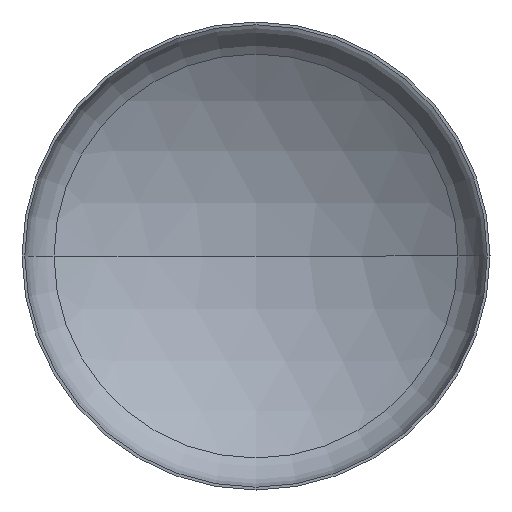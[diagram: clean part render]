
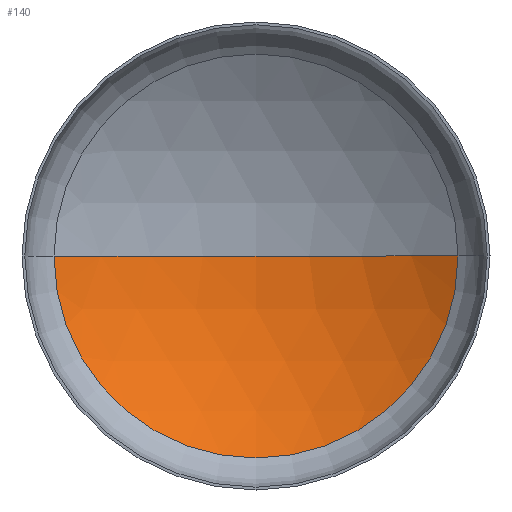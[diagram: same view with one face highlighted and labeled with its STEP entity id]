
A CAD part, front view. The second image highlights one B-rep face of the part: STEP entity #140.
In plain terms, the highlighted spherical face has radius 398.8 mm.
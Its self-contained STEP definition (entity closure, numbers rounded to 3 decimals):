
#5 = CIRCLE ( 'NONE', #257, 398.8 ) ;
#6 = EDGE_LOOP ( 'NONE', ( #133, #386, #41 ) ) ;
#30 = AXIS2_PLACEMENT_3D ( 'NONE', #137, #174, #212 ) ;
#34 = EDGE_CURVE ( 'NONE', #195, #319, #217, .T. ) ;
#37 = CARTESIAN_POINT ( 'NONE',  ( 218.376, 61.896, 0. ) ) ;
#41 = ORIENTED_EDGE ( 'NONE', *, *, #34, .F. ) ;
#53 = CARTESIAN_POINT ( 'NONE',  ( 0., -271.8, 0. ) ) ;
#80 = DIRECTION ( 'NONE',  ( -1., 0., 0. ) ) ;
#94 = AXIS2_PLACEMENT_3D ( 'NONE', #53, #179, #80 ) ;
#120 = DIRECTION ( 'NONE',  ( 0., 0., 1. ) ) ;
#133 = ORIENTED_EDGE ( 'NONE', *, *, #151, .F. ) ;
#137 = CARTESIAN_POINT ( 'NONE',  ( 0., -271.8, 0. ) ) ;
#140 = ADVANCED_FACE ( 'NONE', ( #245 ), #337, .F. ) ;
#151 = EDGE_CURVE ( 'NONE', #376, #195, #361, .T. ) ;
#169 = CARTESIAN_POINT ( 'NONE',  ( 0., 61.896, 0. ) ) ;
#174 = DIRECTION ( 'NONE',  ( 0., 0., -1. ) ) ;
#179 = DIRECTION ( 'NONE',  ( 0., 0., 1. ) ) ;
#183 = EDGE_CURVE ( 'NONE', #376, #319, #5, .T. ) ;
#195 = VERTEX_POINT ( 'NONE', #216 ) ;
#204 = AXIS2_PLACEMENT_3D ( 'NONE', #169, #207, #333 ) ;
#207 = DIRECTION ( 'NONE',  ( 0., 1., 0. ) ) ;
#212 = DIRECTION ( 'NONE',  ( -1., 0., 0. ) ) ;
#216 = CARTESIAN_POINT ( 'NONE',  ( -218.376, 61.896, 0. ) ) ;
#217 = CIRCLE ( 'NONE', #30, 398.8 ) ;
#245 = FACE_OUTER_BOUND ( 'NONE', #6, .T. ) ;
#257 = AXIS2_PLACEMENT_3D ( 'NONE', #345, #120, #404 ) ;
#319 = VERTEX_POINT ( 'NONE', #378 ) ;
#333 = DIRECTION ( 'NONE',  ( -1., 0., 0. ) ) ;
#337 = SPHERICAL_SURFACE ( 'NONE', #94, 398.8 ) ;
#345 = CARTESIAN_POINT ( 'NONE',  ( 0., -271.8, 0. ) ) ;
#361 = CIRCLE ( 'NONE', #204, 218.376 ) ;
#376 = VERTEX_POINT ( 'NONE', #37 ) ;
#378 = CARTESIAN_POINT ( 'NONE',  ( 0., 127., 0. ) ) ;
#386 = ORIENTED_EDGE ( 'NONE', *, *, #183, .T. ) ;
#404 = DIRECTION ( 'NONE',  ( 1., 0., 0. ) ) ;
